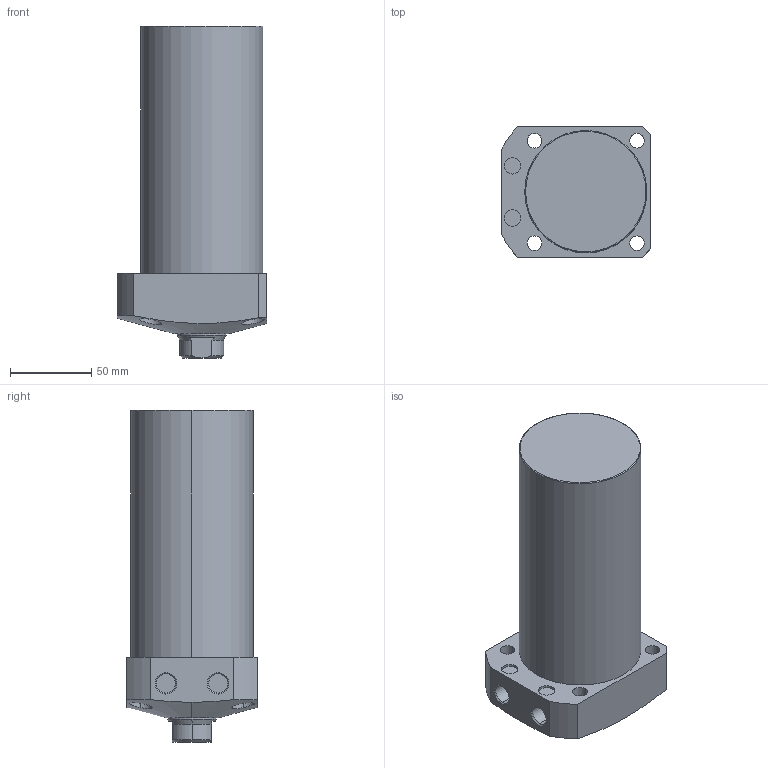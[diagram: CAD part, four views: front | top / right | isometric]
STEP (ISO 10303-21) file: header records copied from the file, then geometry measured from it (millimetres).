
FILE_DESCRIPTION (( 'STEP AP203' ), '1' );
FILE_NAME ('CLL-075CA-115.STEP', '2019-12-23T08:50:55', ( '' ), ( '' ), 'SwSTEP 2.0', 'SolidWorks 2015', '' );
FILE_SCHEMA (( 'CONFIG_CONTROL_DESIGN' ));
Length unit declared in the file: millimetre
Products named in the file (1): CLL-075CA-115
Bounding box: 92 x 80 x 204 mm (x, y, z)
Volume: 890573.4 mm3; surface area: 68148.5 mm2
Topology: 1 solids, 1 shells, 74 faces, 171 edges, 108 vertices
Faces by surface type: cylinder 35, plane 22, cone 15, torus 2
Entity records: 2610 total; most frequent: CARTESIAN_POINT 815, DIRECTION 376, ORIENTED_EDGE 338, EDGE_CURVE 169, AXIS2_PLACEMENT_3D 156, VERTEX_POINT 108, EDGE_LOOP 93, CIRCLE 81
